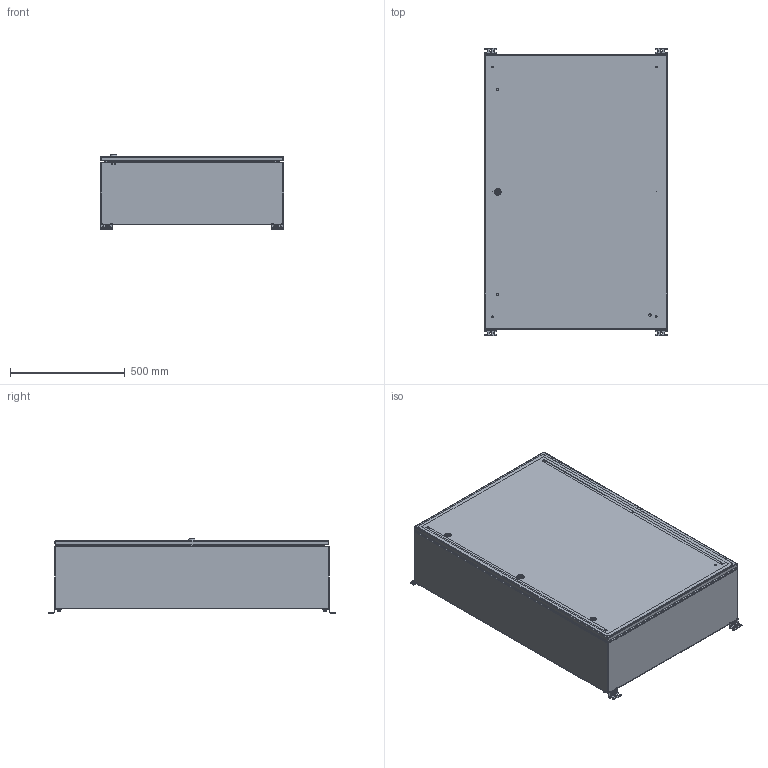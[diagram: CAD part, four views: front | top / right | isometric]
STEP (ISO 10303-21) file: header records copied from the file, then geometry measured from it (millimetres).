
FILE_DESCRIPTION(('STEP AP242'), '1');
FILE_NAME('400 ﾙﾌﾏ-1 (IP-56)', '', ('UNSPECIFIED'), ('UNSPECIFIED'), 'C3D Converter', 'C3D Toolkit', '');
FILE_SCHEMA(('AP242_MANAGED_MODEL_BASED_3D_ENGINEERING_MIM_LF { 1 0 10303 442 1 1 4 }'));
Length unit declared in the file: millimetre
Products named in the file (54): ЩМП-1-Ф СБ; 410-Ф; 420; 421; 411-Ф; 412; 490; 491; 401; 440-Ф; 441-Ф; 402; 450; 451; ЦИУЛ.210677.00.03-03; 452
Assembly tree (125 placements, depth 4):
  ЩМП-1-Ф СБ
    410-Ф
      420
        421
        (unnamed)  x6
        (unnamed)
      411-Ф
      412
    490  x2
      491
      (unnamed)
      (unnamed)
      (unnamed)
      (unnamed)
      (unnamed)
    490  x2
      491
      (unnamed)
      (unnamed)
      (unnamed)
      (unnamed)
      (unnamed)
    401
    (unnamed)  x6
    (unnamed)  x6
    (unnamed)  x6
    (unnamed)  x3
      (unnamed)
      (unnamed)
      (unnamed)
    (unnamed)  x6
    440-Ф
      441-Ф
      (unnamed)
      (unnamed)  x6
      (unnamed)  x2
      (unnamed)  x3
    402  x2
    (unnamed)  x6
    (unnamed)  x6
    (unnamed)  x2
    (unnamed)
      (unnamed)
      (unnamed)
      (unnamed)
      (unnamed)
      (unnamed)
    (unnamed)
    (unnamed)  x2
      (unnamed)
      (unnamed)
      (unnamed)
    (unnamed)  x2
    (unnamed)  x2
    450
      451
      (unnamed)  x3
      (unnamed)  x2
      (unnamed)  x2
      (unnamed)  x3
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Bounding box: 800 x 1256 x 323.1 mm (x, y, z)
Volume: 7345000.2 mm3; surface area: 8829952.9 mm2
Topology: 137 solids, 139 shells, 2792 faces, 6546 edges, 4105 vertices
Faces by surface type: plane 1492, cylinder 846, cone 266, torus 75, bspline 70, sphere 43
Full cylindrical faces by diameter (mm): 0.5 x6, 2.6 x4, 3.3 x1, 3.5 x168, 4 x5, 4.134 x5, 4.2 x7, 4.85 x2, 4.917 x6, 5 x18, 5.3 x2, 5.5 x15, 5.75 x3, 5.8 x1, 6 x25, 6.4 x6, 6.5 x4, 6.647 x10, 7 x9, 7.3 x6, 7.4 x1, 7.5 x9, 7.9 x4, 8 x21, 8.3 x2, 8.4 x10, 8.5 x23, 9 x14, 10 x16, 10.4 x1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
Entity records: 85053 total; most frequent: CARTESIAN_POINT 43888, DIRECTION 6832, ORIENTED_EDGE 6448, EDGE_CURVE 3224, AXIS2_PLACEMENT_3D 2610, VERTEX_POINT 2186, EDGE_LOOP 2062, LINE 1612
